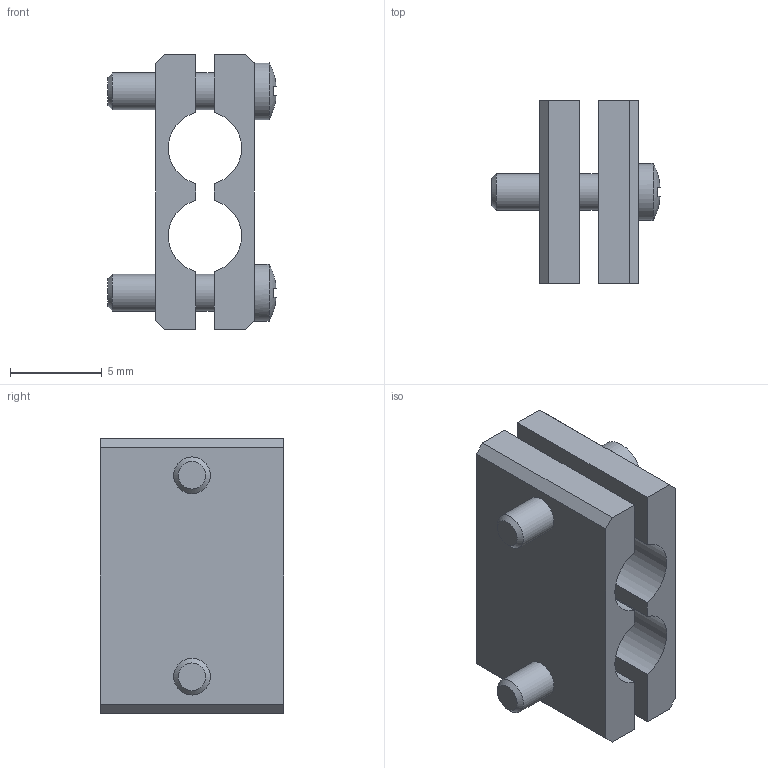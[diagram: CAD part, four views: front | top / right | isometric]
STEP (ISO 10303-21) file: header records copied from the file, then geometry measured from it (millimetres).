
FILE_DESCRIPTION(('STEP AP214'),'1');
FILE_NAME('CA.I.SGSP.32.stp','2023-04-01T08:03:22',(' '),(' '),'Spatial InterOp 3D',' ',' ');
FILE_SCHEMA(('AUTOMOTIVE_DESIGN { 1 0 10303 214 1 1 1 1 }'));
Length unit declared in the file: millimetre
Products named in the file (1): CA.I.SGSP.32
Bounding box: 9.19 x 10 x 15 mm (x, y, z)
Volume: 516.5 mm3; surface area: 893.1 mm2
Topology: 1 solids, 1 shells, 64 faces, 168 edges, 110 vertices
Faces by surface type: plane 50, cylinder 10, bspline 2, cone 2
Full cylindrical faces by diameter (mm): 2 x4, 3.1 x2
Entity records: 2448 total; most frequent: CARTESIAN_POINT 423, ORIENTED_EDGE 304, DIRECTION 278, EDGE_CURVE 152, VERTEX_POINT 104, LINE 104, VECTOR 104, AXIS2_PLACEMENT_3D 87
